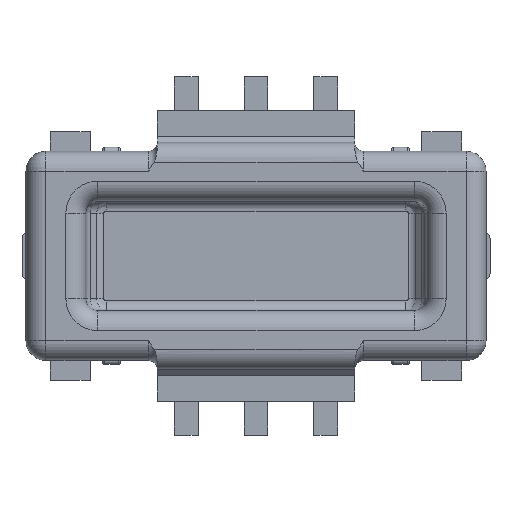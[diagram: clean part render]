
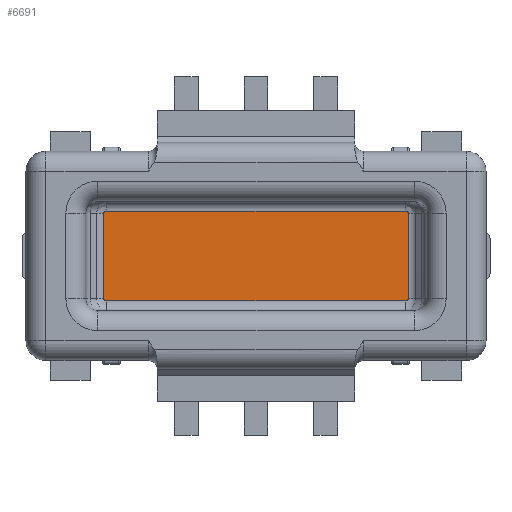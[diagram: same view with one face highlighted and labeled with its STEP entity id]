
A CAD part, top view. The second image highlights one B-rep face of the part: STEP entity #6691.
In plain terms, the highlighted planar face has unit normal (0, 0, 1).
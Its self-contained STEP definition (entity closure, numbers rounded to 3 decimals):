
#3225=CARTESIAN_POINT('Vertex',(-0.461,0.215,0.105)) ;
#3228=CARTESIAN_POINT('Line Origine',(-0.461,-0.217,0.105)) ;
#3232=CARTESIAN_POINT('Vertex',(-0.461,-0.215,0.105)) ;
#6260=CARTESIAN_POINT('Vertex',(-1.989,-0.215,0.105)) ;
#6263=CARTESIAN_POINT('Line Origine',(-1.989,-0.217,0.105)) ;
#6267=CARTESIAN_POINT('Vertex',(-1.989,0.215,0.105)) ;
#6584=CARTESIAN_POINT('Axis2P3D Location',(0.,0.,0.105)) ;
#6589=CARTESIAN_POINT('Line Origine',(-1.225,-0.225,0.105)) ;
#6593=CARTESIAN_POINT('Vertex',(-0.475,-0.225,0.105)) ;
#6595=CARTESIAN_POINT('Vertex',(-1.975,-0.225,0.105)) ;
#6599=CARTESIAN_POINT('Control Point',(-0.461,-0.215,0.105)) ;
#6600=CARTESIAN_POINT('Control Point',(-0.461,-0.216,0.105)) ;
#6601=CARTESIAN_POINT('Control Point',(-0.461,-0.217,0.105)) ;
#6602=CARTESIAN_POINT('Control Point',(-0.461,-0.218,0.105)) ;
#6603=CARTESIAN_POINT('Control Point',(-0.462,-0.219,0.105)) ;
#6604=CARTESIAN_POINT('Control Point',(-0.463,-0.221,0.105)) ;
#6605=CARTESIAN_POINT('Control Point',(-0.464,-0.221,0.105)) ;
#6606=CARTESIAN_POINT('Control Point',(-0.465,-0.222,0.105)) ;
#6607=CARTESIAN_POINT('Control Point',(-0.466,-0.223,0.105)) ;
#6608=CARTESIAN_POINT('Control Point',(-0.467,-0.223,0.105)) ;
#6609=CARTESIAN_POINT('Control Point',(-0.469,-0.224,0.105)) ;
#6610=CARTESIAN_POINT('Control Point',(-0.471,-0.225,0.105)) ;
#6611=CARTESIAN_POINT('Control Point',(-0.472,-0.225,0.105)) ;
#6612=CARTESIAN_POINT('Control Point',(-0.474,-0.225,0.105)) ;
#6613=CARTESIAN_POINT('Control Point',(-0.475,-0.225,0.105)) ;
#6616=CARTESIAN_POINT('Control Point',(-0.475,0.225,0.105)) ;
#6617=CARTESIAN_POINT('Control Point',(-0.474,0.225,0.105)) ;
#6618=CARTESIAN_POINT('Control Point',(-0.473,0.225,0.105)) ;
#6619=CARTESIAN_POINT('Control Point',(-0.472,0.225,0.105)) ;
#6620=CARTESIAN_POINT('Control Point',(-0.471,0.225,0.105)) ;
#6621=CARTESIAN_POINT('Control Point',(-0.469,0.224,0.105)) ;
#6622=CARTESIAN_POINT('Control Point',(-0.468,0.224,0.105)) ;
#6623=CARTESIAN_POINT('Control Point',(-0.467,0.223,0.105)) ;
#6624=CARTESIAN_POINT('Control Point',(-0.466,0.223,0.105)) ;
#6625=CARTESIAN_POINT('Control Point',(-0.465,0.222,0.105)) ;
#6626=CARTESIAN_POINT('Control Point',(-0.464,0.221,0.105)) ;
#6627=CARTESIAN_POINT('Control Point',(-0.463,0.22,0.105)) ;
#6628=CARTESIAN_POINT('Control Point',(-0.462,0.22,0.105)) ;
#6629=CARTESIAN_POINT('Control Point',(-0.462,0.218,0.105)) ;
#6630=CARTESIAN_POINT('Control Point',(-0.461,0.217,0.105)) ;
#6631=CARTESIAN_POINT('Control Point',(-0.461,0.216,0.105)) ;
#6632=CARTESIAN_POINT('Control Point',(-0.461,0.216,0.105)) ;
#6633=CARTESIAN_POINT('Control Point',(-0.461,0.215,0.105)) ;
#6634=CARTESIAN_POINT('Vertex',(-0.475,0.225,0.105)) ;
#6637=CARTESIAN_POINT('Line Origine',(-1.225,0.225,0.105)) ;
#6641=CARTESIAN_POINT('Vertex',(-1.975,0.225,0.105)) ;
#6645=CARTESIAN_POINT('Control Point',(-1.975,0.225,0.105)) ;
#6646=CARTESIAN_POINT('Control Point',(-1.976,0.225,0.105)) ;
#6647=CARTESIAN_POINT('Control Point',(-1.977,0.225,0.105)) ;
#6648=CARTESIAN_POINT('Control Point',(-1.978,0.225,0.105)) ;
#6649=CARTESIAN_POINT('Control Point',(-1.979,0.225,0.105)) ;
#6650=CARTESIAN_POINT('Control Point',(-1.981,0.224,0.105)) ;
#6651=CARTESIAN_POINT('Control Point',(-1.982,0.224,0.105)) ;
#6652=CARTESIAN_POINT('Control Point',(-1.983,0.223,0.105)) ;
#6653=CARTESIAN_POINT('Control Point',(-1.984,0.223,0.105)) ;
#6654=CARTESIAN_POINT('Control Point',(-1.985,0.222,0.105)) ;
#6655=CARTESIAN_POINT('Control Point',(-1.986,0.221,0.105)) ;
#6656=CARTESIAN_POINT('Control Point',(-1.987,0.22,0.105)) ;
#6657=CARTESIAN_POINT('Control Point',(-1.988,0.22,0.105)) ;
#6658=CARTESIAN_POINT('Control Point',(-1.988,0.218,0.105)) ;
#6659=CARTESIAN_POINT('Control Point',(-1.989,0.217,0.105)) ;
#6660=CARTESIAN_POINT('Control Point',(-1.989,0.216,0.105)) ;
#6661=CARTESIAN_POINT('Control Point',(-1.989,0.216,0.105)) ;
#6662=CARTESIAN_POINT('Control Point',(-1.989,0.215,0.105)) ;
#6665=CARTESIAN_POINT('Control Point',(-1.989,-0.215,0.105)) ;
#6666=CARTESIAN_POINT('Control Point',(-1.989,-0.216,0.105)) ;
#6667=CARTESIAN_POINT('Control Point',(-1.989,-0.217,0.105)) ;
#6668=CARTESIAN_POINT('Control Point',(-1.989,-0.218,0.105)) ;
#6669=CARTESIAN_POINT('Control Point',(-1.988,-0.219,0.105)) ;
#6670=CARTESIAN_POINT('Control Point',(-1.987,-0.221,0.105)) ;
#6671=CARTESIAN_POINT('Control Point',(-1.986,-0.221,0.105)) ;
#6672=CARTESIAN_POINT('Control Point',(-1.985,-0.222,0.105)) ;
#6673=CARTESIAN_POINT('Control Point',(-1.984,-0.223,0.105)) ;
#6674=CARTESIAN_POINT('Control Point',(-1.983,-0.223,0.105)) ;
#6675=CARTESIAN_POINT('Control Point',(-1.981,-0.224,0.105)) ;
#6676=CARTESIAN_POINT('Control Point',(-1.979,-0.225,0.105)) ;
#6677=CARTESIAN_POINT('Control Point',(-1.978,-0.225,0.105)) ;
#6678=CARTESIAN_POINT('Control Point',(-1.976,-0.225,0.105)) ;
#6679=CARTESIAN_POINT('Control Point',(-1.975,-0.225,0.105)) ;
#3229=DIRECTION('Vector Direction',(0.,1.,0.)) ;
#6264=DIRECTION('Vector Direction',(0.,-1.,0.)) ;
#6585=DIRECTION('Axis2P3D Direction',(0.,0.,1.)) ;
#6586=DIRECTION('Axis2P3D XDirection',(1.,0.,0.)) ;
#6590=DIRECTION('Vector Direction',(1.,0.,0.)) ;
#6638=DIRECTION('Vector Direction',(-1.,0.,0.)) ;
#6587=AXIS2_PLACEMENT_3D('Plane Axis2P3D',#6584,#6585,#6586) ;
#6682=ORIENTED_EDGE('',*,*,#6597,.F.) ;
#6683=ORIENTED_EDGE('',*,*,#6614,.F.) ;
#6684=ORIENTED_EDGE('',*,*,#3234,.T.) ;
#6685=ORIENTED_EDGE('',*,*,#6636,.F.) ;
#6686=ORIENTED_EDGE('',*,*,#6643,.F.) ;
#6687=ORIENTED_EDGE('',*,*,#6663,.T.) ;
#6688=ORIENTED_EDGE('',*,*,#6269,.F.) ;
#6689=ORIENTED_EDGE('',*,*,#6680,.T.) ;
#3230=VECTOR('Line Direction',#3229,1.) ;
#6265=VECTOR('Line Direction',#6264,1.) ;
#6591=VECTOR('Line Direction',#6590,1.) ;
#6639=VECTOR('Line Direction',#6638,1.) ;
#6691=ADVANCED_FACE('MANIFOLD_SOLID_BREP #11608',(#6690),#6588,.T.) ;
#6598=B_SPLINE_CURVE_WITH_KNOTS('',5,(#6599,#6600,#6601,#6602,#6603,#6604,#6605,#6606,#6607,#6608,#6609,#6610,#6611,#6612,#6613),.UNSPECIFIED.,.F.,.U.,(6,3,3,3,6),(0.,0.007,0.012,0.018,0.027),.UNSPECIFIED.) ;
#6615=B_SPLINE_CURVE_WITH_KNOTS('',5,(#6616,#6617,#6618,#6619,#6620,#6621,#6622,#6623,#6624,#6625,#6626,#6627,#6628,#6629,#6630,#6631,#6632,#6633),.UNSPECIFIED.,.F.,.U.,(6,3,3,3,3,6),(0.,0.006,0.011,0.017,0.022,0.027),.UNSPECIFIED.) ;
#6644=B_SPLINE_CURVE_WITH_KNOTS('',5,(#6645,#6646,#6647,#6648,#6649,#6650,#6651,#6652,#6653,#6654,#6655,#6656,#6657,#6658,#6659,#6660,#6661,#6662),.UNSPECIFIED.,.F.,.U.,(6,3,3,3,3,6),(0.,0.006,0.011,0.017,0.022,0.027),.UNSPECIFIED.) ;
#6664=B_SPLINE_CURVE_WITH_KNOTS('',5,(#6665,#6666,#6667,#6668,#6669,#6670,#6671,#6672,#6673,#6674,#6675,#6676,#6677,#6678,#6679),.UNSPECIFIED.,.F.,.U.,(6,3,3,3,6),(0.,0.007,0.012,0.018,0.027),.UNSPECIFIED.) ;
#3234=EDGE_CURVE('',#3233,#3226,#3231,.T.) ;
#6269=EDGE_CURVE('',#6261,#6268,#6266,.F.) ;
#6597=EDGE_CURVE('',#6594,#6596,#6592,.F.) ;
#6614=EDGE_CURVE('',#3233,#6594,#6598,.T.) ;
#6636=EDGE_CURVE('',#6635,#3226,#6615,.T.) ;
#6643=EDGE_CURVE('',#6642,#6635,#6640,.F.) ;
#6663=EDGE_CURVE('',#6642,#6268,#6644,.T.) ;
#6680=EDGE_CURVE('',#6261,#6596,#6664,.T.) ;
#6681=EDGE_LOOP('',(#6682,#6683,#6684,#6685,#6686,#6687,#6688,#6689)) ;
#6690=FACE_OUTER_BOUND('',#6681,.T.) ;
#3231=LINE('Line',#3228,#3230) ;
#6266=LINE('Line',#6263,#6265) ;
#6592=LINE('Line',#6589,#6591) ;
#6640=LINE('Line',#6637,#6639) ;
#6588=PLANE('Plane',#6587) ;
#3226=VERTEX_POINT('',#3225) ;
#3233=VERTEX_POINT('',#3232) ;
#6261=VERTEX_POINT('',#6260) ;
#6268=VERTEX_POINT('',#6267) ;
#6594=VERTEX_POINT('',#6593) ;
#6596=VERTEX_POINT('',#6595) ;
#6635=VERTEX_POINT('',#6634) ;
#6642=VERTEX_POINT('',#6641) ;
